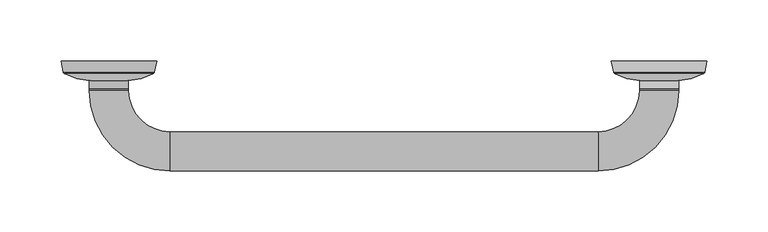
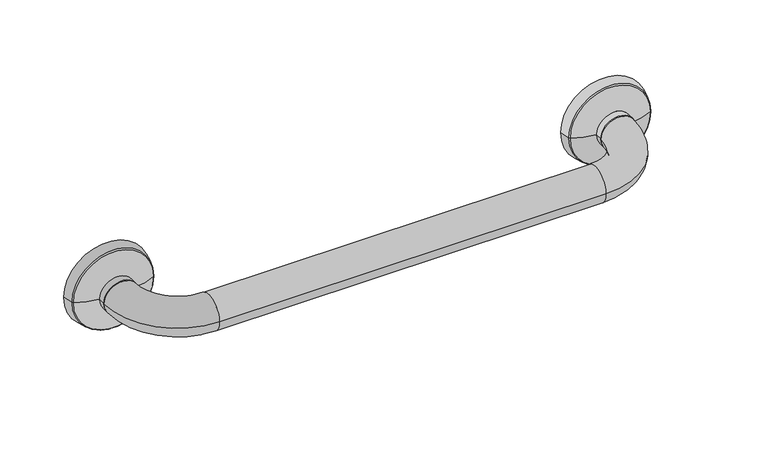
"""IFC4 building model written with IfcOpenShell, lengths in millimetres: proxy geometry, Grab Rail_Metlam_Straight_Horizontal : 482long x 90d x 32h (ML330_1SS)."""

from ifc_helpers import new_model, si_unit, point, frame, origin, place, context, project, spatial, polyline, circle_curve, ellipse_curve, trimmed, source, transform, mapped, element, save
from ifc_brep_helpers import plane_surface, cylinder_surface, revolved_surface, advanced_brep


def specialty_equipment_07138ebc(model_context):
    return source(origin(), model_context, "Body", "AdvancedBrep", [
        advanced_brep(
        [(89.0, -58.0, 784.0), (55.0, -24.0, 784.0), (23.0, -24.0, 784.0), (89.0, -90.0, 784.0), (439.0, -90.0, 784.0), (439.0, -58.0, 784.0), (505.0, -24.0, 784.0), (473.0, -24.0, 784.0), (55.0, -23.0, 784.0), (23.0, -23.0, 784.0), (505.0, -23.0, 784.0), (473.0, -23.0, 784.0), (0.0, 0.0, 784.0), (78.0, 0.0, 784.0), (76.1870729, -9.0646354, 784.0), (1.8129271, -9.0646354, 784.0), (2.8615925, -10.4521085, 784.0), (75.1384075, -10.4521085, 784.0), (55.0, -16.0065539, 784.0), (23.0, -16.0065539, 784.0), (39.0, 0.0, 784.0), (528.0, 0.0, 784.0), (450.0, 0.0, 784.0), (489.0, 0.0, 784.0), (526.1870729, -9.0646354, 784.0), (451.8129271, -9.0646354, 784.0), (505.0, -16.0065539, 784.0), (473.0, -16.0065539, 784.0), (452.8615925, -10.4521085, 784.0), (525.1384075, -10.4521085, 784.0)],
        [
            (0, 1, circle_curve(frame((89.0, -24.0, 784.0), z_axis=(0.0, 0.0, -1.0), x_axis=(-1.0, 0.0, 0.0)), 34.0)),
            (1, 2, circle_curve(frame((39.0, -24.0, 784.0), z_axis=(0.0, -1.0, 0.0), x_axis=(1.0, 0.0, 0.0)), 16.0)),
            (2, 3, circle_curve(frame((89.0, -24.0, 784.0), z_axis=(0.0, 0.0, 1.0), x_axis=(-1.0, 0.0, 0.0)), 66.0)),
            (3, 0, circle_curve(frame((89.0, -74.0, 784.0), z_axis=(-1.0, 1.825290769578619e-12, 0.0), x_axis=(1.825290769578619e-12, 1.0, 0.0)), 16.0)),
            (0, 3, circle_curve(frame((89.0, -74.0, 784.0), z_axis=(-1.0, 3.5350342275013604e-12, 0.0), x_axis=(3.5350342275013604e-12, 1.0, 0.0)), 16.0)),
            (2, 1, circle_curve(frame((39.0, -24.0, 784.0), z_axis=(0.0, -1.0, 0.0), x_axis=(1.0, 0.0, 0.0)), 16.0)),
            (3, 4),
            (4, 5, circle_curve(frame((439.0, -74.0, 784.0), z_axis=(-1.0, 0.0, 0.0), x_axis=(0.0, 1.0, 0.0)), 16.0)),
            (5, 0),
            (5, 4, circle_curve(frame((439.0, -74.0, 784.0), z_axis=(-1.0, 0.0, 0.0), x_axis=(0.0, 1.0, 0.0)), 16.0)),
            (4, 6, circle_curve(frame((439.0, -24.0, 784.0), z_axis=(0.0, 0.0, 1.0), x_axis=(0.0, -1.0, 0.0)), 66.0)),
            (6, 7, circle_curve(frame((489.0, -24.0, 784.0), z_axis=(0.0, -1.0, 0.0), x_axis=(-1.0, 0.0, 0.0)), 16.0)),
            (7, 5, circle_curve(frame((439.0, -24.0, 784.0), z_axis=(0.0, 0.0, -1.0), x_axis=(0.0, -1.0, 0.0)), 34.0)),
            (7, 6, circle_curve(frame((489.0, -24.0, 784.0), z_axis=(0.0, -1.0, 0.0), x_axis=(-1.0, 0.0, 0.0)), 16.0)),
            (1, 8),
            (8, 9, circle_curve(frame((39.0, -23.0, 784.0), z_axis=(0.0, -1.0, 0.0), x_axis=(1.0, 0.0, 0.0)), 16.0)),
            (9, 2),
            (9, 8, circle_curve(frame((39.0, -23.0, 784.0), z_axis=(0.0, -1.0, 0.0), x_axis=(1.0, 0.0, 0.0)), 16.0)),
            (6, 10),
            (10, 11, circle_curve(frame((489.0, -23.0, 784.0), z_axis=(0.0, -1.0, 0.0), x_axis=(-1.0, 0.0, 0.0)), 16.0)),
            (11, 7),
            (11, 10, circle_curve(frame((489.0, -23.0, 784.0), z_axis=(0.0, -1.0, 0.0), x_axis=(-1.0, 0.0, 0.0)), 16.0)),
            (12, 13, circle_curve(frame((39.0, 0.0, 784.0), z_axis=(0.0, -1.0, 0.0), x_axis=(1.0, 0.0, 0.0)), 39.0)),
            (13, 14),
            (14, 15, circle_curve(frame((39.0, -9.0646354, 784.0), z_axis=(0.0, 1.0, 0.0), x_axis=(1.0, 0.0, 0.0)), 37.1870729)),
            (15, 12),
            (13, 12, circle_curve(frame((39.0, 0.0, 784.0), z_axis=(0.0, -1.0, 0.0), x_axis=(1.0, 0.0, 0.0)), 39.0)),
            (15, 14, circle_curve(frame((39.0, -9.0646354, 784.0), z_axis=(0.0, 1.0, 0.0), x_axis=(1.0, 0.0, 0.0)), 37.1870729)),
            (16, 17, circle_curve(frame((39.0, -10.4521085, 784.0), z_axis=(0.0, -1.0, 0.0), x_axis=(1.0, 0.0, 0.0)), 36.1384075)),
            (17, 18, circle_curve(frame((51.6887092, 35.2834961, 784.0), z_axis=(0.0, 0.0, -1.0), x_axis=(-1.0, 0.0, 0.0)), 51.3968275)),
            (18, 19, circle_curve(frame((39.0, -16.0065539, 784.0), z_axis=(0.0, 1.0, 0.0), x_axis=(1.0, 0.0, 0.0)), 16.0)),
            (19, 16, circle_curve(frame((26.3112908, 35.2834961, 784.0), z_axis=(0.0, 0.0, -1.0), x_axis=(1.0, 0.0, 0.0)), 51.3968275)),
            (17, 16, circle_curve(frame((39.0, -10.4521085, 784.0), z_axis=(0.0, -1.0, 0.0), x_axis=(1.0, 0.0, 0.0)), 36.1384075)),
            (19, 18, circle_curve(frame((39.0, -16.0065539, 784.0), z_axis=(0.0, 1.0, 0.0), x_axis=(1.0, 0.0, 0.0)), 16.0)),
            (18, 8),
            (9, 19),
            (12, 20),
            (20, 13),
            (14, 17, circle_curve(frame((74.2259116, -8.6724031, 784.0), z_axis=(0.0, 0.0, -1.0), x_axis=(-1.0, 0.0, 0.0)), 2.0)),
            (16, 15, circle_curve(frame((3.7740884, -8.6724031, 784.0), z_axis=(0.0, 0.0, -1.0), x_axis=(1.0, 0.0, 0.0)), 2.0)),
            (21, 22, circle_curve(frame((489.0, 0.0, 784.0), z_axis=(0.0, 1.0, 0.0), x_axis=(-1.0, 0.0, 0.0)), 39.0)),
            (22, 23),
            (23, 21),
            (22, 21, circle_curve(frame((489.0, 0.0, 784.0), z_axis=(0.0, 1.0, 0.0), x_axis=(-1.0, 0.0, 0.0)), 39.0)),
            (21, 24),
            (24, 25, circle_curve(frame((489.0, -9.0646354, 784.0), z_axis=(0.0, 1.0, 0.0), x_axis=(-1.0, 0.0, 0.0)), 37.1870729)),
            (25, 22),
            (25, 24, circle_curve(frame((489.0, -9.0646354, 784.0), z_axis=(0.0, 1.0, 0.0), x_axis=(-1.0, 0.0, 0.0)), 37.1870729)),
            (26, 27, circle_curve(frame((489.0, -16.0065539, 784.0), z_axis=(0.0, 1.0, 0.0), x_axis=(-1.0, 0.0, 0.0)), 16.0)),
            (27, 28, circle_curve(frame((476.3112908, 35.2834961, 784.0), z_axis=(0.0, 0.0, -1.0), x_axis=(-1.0, 0.0, 0.0)), 51.3968275)),
            (28, 29, circle_curve(frame((489.0, -10.4521085, 784.0), z_axis=(0.0, -1.0, 0.0), x_axis=(-1.0, 0.0, 0.0)), 36.1384075)),
            (29, 26, circle_curve(frame((501.6887092, 35.2834961, 784.0), z_axis=(0.0, 0.0, -1.0), x_axis=(1.0, 0.0, 0.0)), 51.3968275)),
            (27, 26, circle_curve(frame((489.0, -16.0065539, 784.0), z_axis=(0.0, 1.0, 0.0), x_axis=(-1.0, 0.0, 0.0)), 16.0)),
            (29, 28, circle_curve(frame((489.0, -10.4521085, 784.0), z_axis=(0.0, -1.0, 0.0), x_axis=(-1.0, 0.0, 0.0)), 36.1384075)),
            (26, 10),
            (11, 27),
            (24, 29, circle_curve(frame((524.2259116, -8.6724031, 784.0), z_axis=(0.0, 0.0, -1.0), x_axis=(1.0, 0.0, 0.0)), 2.0)),
            (28, 25, circle_curve(frame((453.7740884, -8.6724031, 784.0), z_axis=(0.0, 0.0, -1.0), x_axis=(-1.0, 0.0, 0.0)), 2.0)),
        ],
        [
            revolved_surface(trimmed(ellipse_curve(frame((39.0, -24.0, 784.0), z_axis=(0.0, 1.0, 0.0), x_axis=(1.0, 0.0, 0.0)), 16.0, 16.0), [point((23.0, -24.0, 784.0))], [point((55.0, -24.0, 784.0))], True, "CARTESIAN"), (89.0, -24.0, 784.0), (0.0, 0.0, 1.0)),
            revolved_surface(trimmed(ellipse_curve(frame((39.0, -24.0, 784.0), z_axis=(0.0, 1.0, 0.0), x_axis=(1.0, 0.0, 0.0)), 16.0, 16.0), [point((55.0, -24.0, 784.0))], [point((23.0, -24.0, 784.0))], True, "CARTESIAN"), (89.0, -24.0, 784.0), (0.0, 0.0, 1.0)),
            cylinder_surface(frame((89.0, -74.0, 784.0), z_axis=(-1.0, 0.0, 0.0), x_axis=(0.0, 1.0, 0.0)), 16.0),
            revolved_surface(trimmed(ellipse_curve(frame((439.0, -74.0, 784.0), z_axis=(-1.0, 0.0, 0.0), x_axis=(0.0, 1.0, 0.0)), 16.0, 16.0), [point((439.0, -90.0, 784.0))], [point((439.0, -58.0, 784.0))], True, "CARTESIAN"), (439.0, -24.0, 784.0), (0.0, 0.0, 1.0)),
            revolved_surface(trimmed(ellipse_curve(frame((439.0, -74.0, 784.0), z_axis=(-1.0, 0.0, 0.0), x_axis=(0.0, 1.0, 0.0)), 16.0, 16.0), [point((439.0, -58.0, 784.0))], [point((439.0, -90.0, 784.0))], True, "CARTESIAN"), (439.0, -24.0, 784.0), (0.0, 0.0, 1.0)),
            cylinder_surface(frame((39.0, -23.0, 784.0), z_axis=(0.0, 1.0, 0.0), x_axis=(1.0, 0.0, 0.0)), 16.0),
            cylinder_surface(frame((489.0, -24.0, 784.0), z_axis=(0.0, -1.0, 0.0), x_axis=(-1.0, 0.0, 0.0)), 16.0),
            revolved_surface(polyline([(76.1870729, -9.0646354, 784.0), (78.0, 0.0, 784.0)]), (39.0, -10.0, 784.0), (0.0, 1.0, 0.0)),
            revolved_surface(trimmed(ellipse_curve(frame((51.6887092, 35.2834961, 784.0), z_axis=(0.0, 0.0, 1.0), x_axis=(-1.0, 0.0, 0.0)), 51.3968275, 51.3968275), [point((55.0, -16.0065539, 784.0))], [point((75.1384075, -10.4521085, 784.0))], True, "CARTESIAN"), (39.0, -10.0, 784.0), (0.0, 1.0, 0.0)),
            cylinder_surface(frame((39.0, -10.0, 784.0), z_axis=(0.0, 1.0, 0.0), x_axis=(1.0, 0.0, 0.0)), 16.0),
            plane_surface(frame((39.0, 0.0, 784.0), z_axis=(0.0, 1.0, 0.0), x_axis=(1.0, 0.0, 0.0))),
            revolved_surface(trimmed(ellipse_curve(frame((74.2259116, -8.6724031, 784.0), z_axis=(0.0, 0.0, 1.0), x_axis=(-1.0, 0.0, 0.0)), 2.0, 2.0), [point((75.1384075, -10.4521085, 784.0))], [point((76.1870729, -9.0646354, 784.0))], True, "CARTESIAN"), (39.0, -10.0, 784.0), (0.0, 1.0, 0.0)),
            plane_surface(frame((489.0, 0.0, 784.0), z_axis=(0.0, 1.0, 0.0), x_axis=(-1.0, 0.0, 0.0))),
            revolved_surface(polyline([(450.0, 0.0, 784.0), (451.8129271, -9.0646354, 784.0)]), (489.0, -10.0, 784.0), (0.0, -1.0, 0.0)),
            revolved_surface(trimmed(ellipse_curve(frame((476.3112908, 35.2834961, 784.0), z_axis=(0.0, 0.0, 1.0), x_axis=(-1.0, 0.0, 0.0)), 51.3968275, 51.3968275), [point((452.8615925, -10.4521085, 784.0))], [point((473.0, -16.0065539, 784.0))], True, "CARTESIAN"), (489.0, -10.0, 784.0), (0.0, -1.0, 0.0)),
            cylinder_surface(frame((489.0, -10.0, 784.0), z_axis=(0.0, -1.0, 0.0), x_axis=(-1.0, 0.0, 0.0)), 16.0),
            revolved_surface(trimmed(ellipse_curve(frame((453.7740884, -8.6724031, 784.0), z_axis=(0.0, 0.0, 1.0), x_axis=(-1.0, 0.0, 0.0)), 2.0, 2.0), [point((451.8129271, -9.0646354, 784.0))], [point((452.8615925, -10.4521085, 784.0))], True, "CARTESIAN"), (489.0, -10.0, 784.0), (0.0, -1.0, 0.0)),
        ],
        [
            (0, [[1, 2, 3, 4]]),
            (1, [[-1, 5, -3, 6]]),
            (2, [[-4, 7, 8, 9]]),
            (2, [[-5, -9, 10, -7]]),
            (3, [[-8, 11, 12, 13]]),
            (4, [[-10, -13, 14, -11]]),
            (5, [[-2, 15, 16, 17]]),
            (5, [[-6, -17, 18, -15]]),
            (6, [[-12, 19, 20, 21]]),
            (6, [[-14, -21, 22, -19]]),
            (7, [[23, 24, 25, 26]]),
            (7, [[-24, 27, -26, 28]]),
            (8, [[29, 30, 31, 32]]),
            (8, [[-30, 33, -32, 34]]),
            (9, [[-31, 35, -18, 36]]),
            (9, [[-34, -36, -16, -35]]),
            (10, [[-23, 37, 38]]),
            (10, [[-27, -38, -37]]),
            (11, [[-25, 39, -29, 40]]),
            (11, [[-28, -40, -33, -39]]),
            (12, [[41, 42, 43]]),
            (12, [[-42, 44, -43]]),
            (13, [[-41, 45, 46, 47]]),
            (13, [[-44, -47, 48, -45]]),
            (14, [[49, 50, 51, 52]]),
            (14, [[-50, 53, -52, 54]]),
            (15, [[-49, 55, -22, 56]]),
            (15, [[-53, -56, -20, -55]]),
            (16, [[-46, 57, -51, 58]]),
            (16, [[-48, -58, -54, -57]]),
        ],
    ),
    ])


if __name__ == "__main__":
    model = new_model("IFC4")
    model_context = context("Model", 3, world=origin())
    ifc_project = project(units=[si_unit("LENGTHUNIT", "METRE", prefix="MILLI")], contexts=[model_context])
    site = spatial("IfcSite", under=ifc_project)
    building = spatial("IfcBuilding", under=site)
    placement = place(None, origin())
    specialty_equipment_shape = specialty_equipment_07138ebc(model_context)
    element("IfcBuildingElementProxy", 1, Name="Grab Rail_Metlam_Straight_Horizontal : 482long x 90d x 32h (ML330_1SS)", ObjectType="Grab Rail_Metlam_Straight_Horizontal : 482long x 90d x 32h (ML330_1SS)", at=placement, inside=building, context=model_context, shape_type="MappedRepresentation", body=[
        mapped(specialty_equipment_shape, transform((0.0, 0.0, 0.0), x_axis=(1.0, 0.0, 0.0), y_axis=(0.0, 1.0, 0.0), z_axis=(0.0, 0.0, 1.0))),
    ])
    save(model, "model.ifc")
